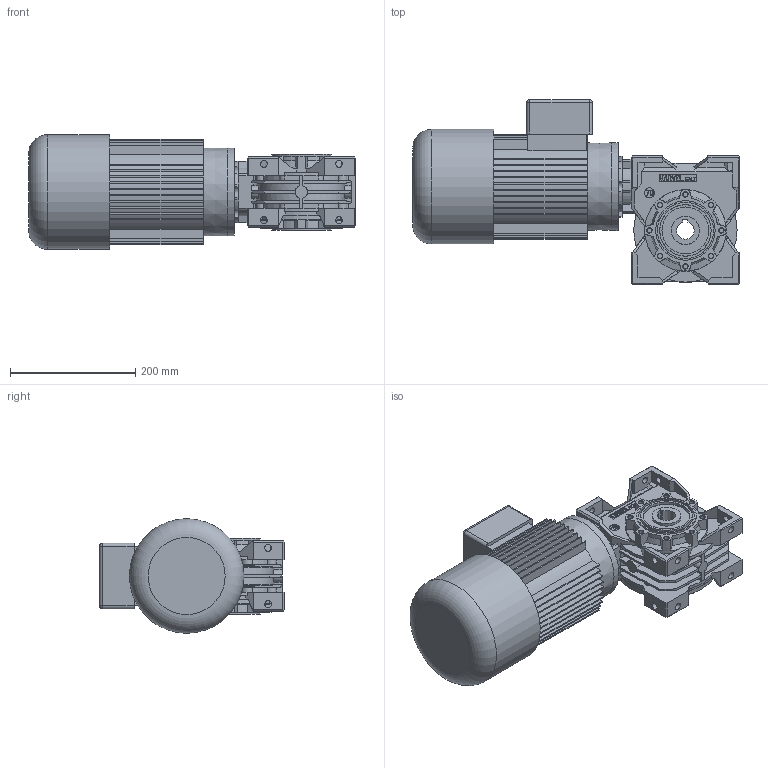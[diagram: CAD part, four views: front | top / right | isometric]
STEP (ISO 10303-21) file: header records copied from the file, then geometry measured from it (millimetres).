
FILE_DESCRIPTION( ( 'Unknown' ), '1' );
FILE_NAME( 'E:/services/configuratordownloads/customers/VARVEL/RT/download/1FCC2B9C90563C6EA6C6C511BA566B0/STEP/1FCC2B9C90563C6EA6C6C511BA566B0.3d.stp', 'Unknown', ( 'Unknown' ), ( 'Unknown' ), 'PSStep 10.1', 'Unknown', ' ' );
FILE_SCHEMA( ( 'AUTOMOTIVE_DESIGN { 1 0 10303 214 1 1 1 1 }' ) );
Length unit declared in the file: millimetre
Products named in the file (1): 533101
Bounding box: 521.5 x 295 x 183 mm (x, y, z)
Volume: 9380298.7 mm3; surface area: 726738.9 mm2
Topology: 1 solids, 5 shells, 1093 faces, 2963 edges, 1949 vertices
Faces by surface type: plane 776, cylinder 252, cone 60, sphere 4, torus 1
Full cylindrical faces by diameter (mm): 6.8 x4, 7 x8, 7.6 x8, 8.5 x8, 11 x22, 16 x1, 20 x1, 24 x1, 25 x1, 26 x1, 30 x1, 45 x2, 58 x1, 62 x2, 70 x1, 75 x2, 75.1 x2, 76 x1, 85 x2, 85.4 x1, 94 x1, 95 x3, 130 x2, 140 x1, 183 x1
Entity records: 42537 total; most frequent: CARTESIAN_POINT 6490, ORIENTED_EDGE 5616, DIRECTION 5523, EDGE_CURVE 2808, LINE 2075, VECTOR 2075, VERTEX_POINT 1909, AXIS2_PLACEMENT_3D 1724
